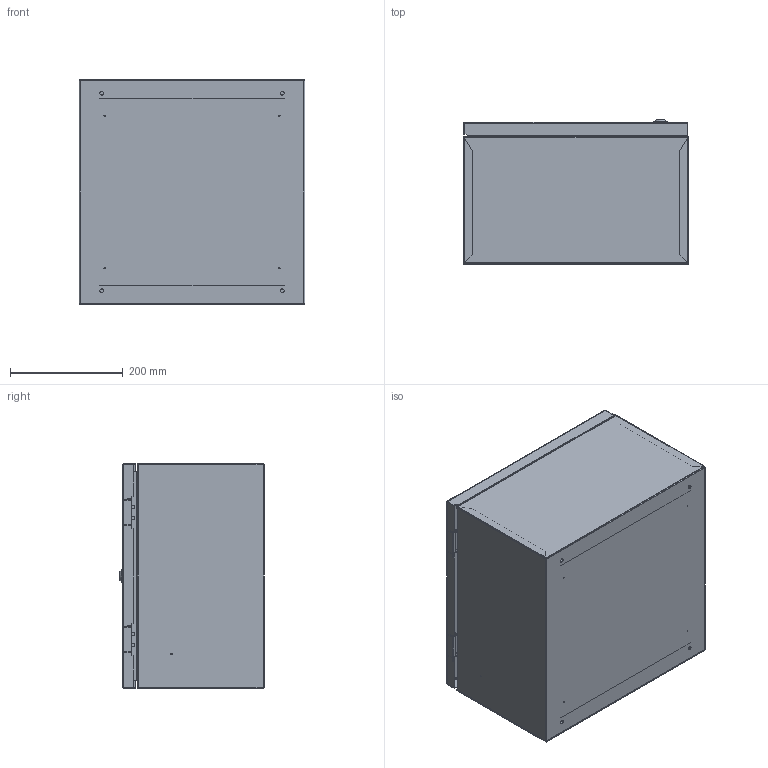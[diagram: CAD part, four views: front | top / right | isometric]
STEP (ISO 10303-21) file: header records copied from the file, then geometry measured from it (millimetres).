
FILE_DESCRIPTION (( 'STEP AP214' ), '1' );
FILE_NAME ('ÙÌÏ-442-400õ400õ250-IP31-ÓÕË3-ÊÝÀÇ.STEP', '2023-01-24T12:09:38', ( '' ), ( '' ), 'SwSTEP 2.0', 'SolidWorks 2018', '' );
FILE_SCHEMA (( 'AUTOMOTIVE_DESIGN' ));
Length unit declared in the file: millimetre
Products named in the file (1): ÙÌÏ-442-400õ400õ250-IP31-ÓÕË3-ÊÝÀÇ
Bounding box: 400 x 255.7 x 400 mm (x, y, z)
Surface area: 1609349.4 mm2 (no closed solid volume)
Topology: 0 solids, 29 shells, 184 faces, 654 edges, 480 vertices
Faces by surface type: plane 95, cylinder 71, bspline 10, torus 6, cone 2
Entity records: 9955 total; most frequent: CARTESIAN_POINT 2415, DIRECTION 1134, ORIENTED_EDGE 942, EDGE_CURVE 654, VERTEX_POINT 480, VECTOR 396, LINE 396, AXIS2_PLACEMENT_3D 369
